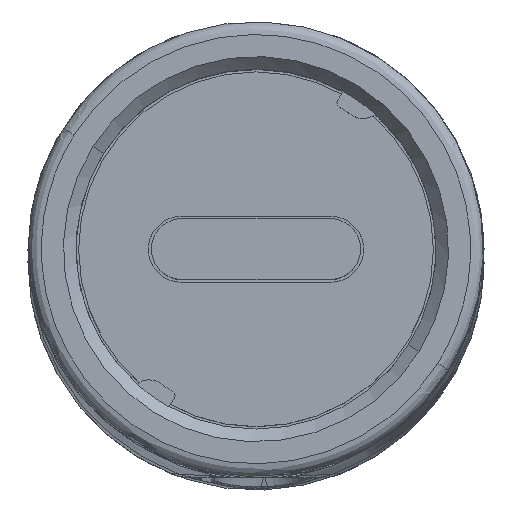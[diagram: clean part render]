
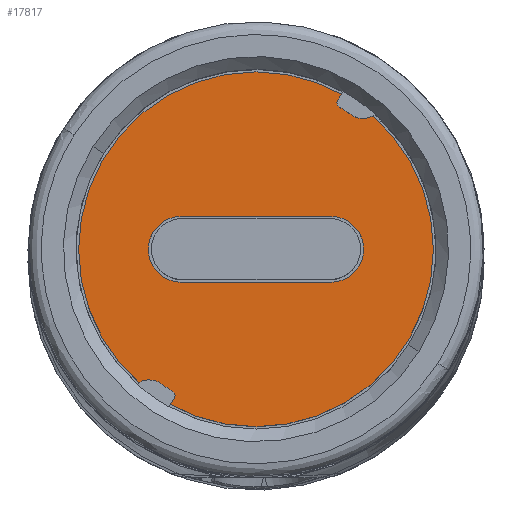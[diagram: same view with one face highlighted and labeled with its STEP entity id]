
A CAD part, top view. The second image highlights one B-rep face of the part: STEP entity #17817.
In plain terms, the highlighted planar face has unit normal (0, 0, 1).
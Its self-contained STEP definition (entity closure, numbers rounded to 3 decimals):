
#425 = ORIENTED_EDGE ( 'NONE', *, *, #13682, .T. ) ;
#2402 = CARTESIAN_POINT ( 'NONE',  ( 7., 0., 309.2 ) ) ;
#3842 = CARTESIAN_POINT ( 'NONE',  ( -2.95, -1.3, 309.2 ) ) ;
#5584 = LINE ( 'NONE', #35479, #45210 ) ;
#6913 = EDGE_CURVE ( 'NONE', #44796, #57198, #31152, .T. ) ;
#8463 = VERTEX_POINT ( 'NONE', #52411 ) ;
#8838 = ORIENTED_EDGE ( 'NONE', *, *, #43844, .T. ) ;
#9765 = AXIS2_PLACEMENT_3D ( 'NONE', #57800, #58109, #13270 ) ;
#9795 = AXIS2_PLACEMENT_3D ( 'NONE', #14526, #10920, #25877 ) ;
#10013 = DIRECTION ( 'NONE',  ( 0., 0., -1. ) ) ;
#10767 = CIRCLE ( 'NONE', #35676, 1.3 ) ;
#10920 = DIRECTION ( 'NONE',  ( 0., 0., -1. ) ) ;
#11335 = ORIENTED_EDGE ( 'NONE', *, *, #45751, .T. ) ;
#11986 = CARTESIAN_POINT ( 'NONE',  ( 2.95, -1.3, 309.2 ) ) ;
#12684 = AXIS2_PLACEMENT_3D ( 'NONE', #59428, #39271, #24341 ) ;
#13270 = DIRECTION ( 'NONE',  ( -1., 0., 0. ) ) ;
#13682 = EDGE_CURVE ( 'NONE', #59653, #55777, #5584, .T. ) ;
#14526 = CARTESIAN_POINT ( 'NONE',  ( 2.95, 0., 309.2 ) ) ;
#14597 = CARTESIAN_POINT ( 'NONE',  ( -7., 0., 309.2 ) ) ;
#14966 = CIRCLE ( 'NONE', #9765, 7. ) ;
#16417 = EDGE_LOOP ( 'NONE', ( #60427, #25013 ) ) ;
#17817 = ADVANCED_FACE ( 'NONE', ( #29523, #54544 ), #18806, .F. ) ;
#18806 = PLANE ( 'NONE',  #43040 ) ;
#20437 = CARTESIAN_POINT ( 'NONE',  ( 2.95, -1.3, 309.2 ) ) ;
#21718 = EDGE_CURVE ( 'NONE', #50116, #41496, #36570, .T. ) ;
#24341 = DIRECTION ( 'NONE',  ( -1., 0., 0. ) ) ;
#25013 = ORIENTED_EDGE ( 'NONE', *, *, #27663, .F. ) ;
#25158 = CIRCLE ( 'NONE', #12684, 1.3 ) ;
#25163 = AXIS2_PLACEMENT_3D ( 'NONE', #26205, #46338, #25878 ) ;
#25877 = DIRECTION ( 'NONE',  ( -1., 0., 0. ) ) ;
#25878 = DIRECTION ( 'NONE',  ( -1., 0., 0. ) ) ;
#26205 = CARTESIAN_POINT ( 'NONE',  ( 0., 0., 309.2 ) ) ;
#26418 = CIRCLE ( 'NONE', #9795, 1.3 ) ;
#27663 = EDGE_CURVE ( 'NONE', #41496, #50116, #14966, .T. ) ;
#29029 = VECTOR ( 'NONE', #46422, 1000. ) ;
#29523 = FACE_OUTER_BOUND ( 'NONE', #16417, .T. ) ;
#31152 = LINE ( 'NONE', #11986, #29029 ) ;
#34131 = EDGE_LOOP ( 'NONE', ( #11335, #8838, #43556, #57320, #425 ) ) ;
#35183 = CARTESIAN_POINT ( 'NONE',  ( 2.95, 1.3, 309.2 ) ) ;
#35479 = CARTESIAN_POINT ( 'NONE',  ( 2.95, 1.3, 309.2 ) ) ;
#35676 = AXIS2_PLACEMENT_3D ( 'NONE', #59592, #40395, #46244 ) ;
#36570 = CIRCLE ( 'NONE', #25163, 7. ) ;
#38600 = CARTESIAN_POINT ( 'NONE',  ( 0., 0., 309.2 ) ) ;
#39031 = EDGE_CURVE ( 'NONE', #57198, #59653, #25158, .T. ) ;
#39271 = DIRECTION ( 'NONE',  ( 0., 0., -1. ) ) ;
#40395 = DIRECTION ( 'NONE',  ( 0., 0., -1. ) ) ;
#41496 = VERTEX_POINT ( 'NONE', #14597 ) ;
#43040 = AXIS2_PLACEMENT_3D ( 'NONE', #38600, #10013, #49330 ) ;
#43556 = ORIENTED_EDGE ( 'NONE', *, *, #6913, .T. ) ;
#43844 = EDGE_CURVE ( 'NONE', #8463, #44796, #10767, .T. ) ;
#44796 = VERTEX_POINT ( 'NONE', #20437 ) ;
#45210 = VECTOR ( 'NONE', #50745, 1000. ) ;
#45751 = EDGE_CURVE ( 'NONE', #55777, #8463, #26418, .T. ) ;
#46244 = DIRECTION ( 'NONE',  ( -1., 0., 0. ) ) ;
#46338 = DIRECTION ( 'NONE',  ( 0., 0., -1. ) ) ;
#46422 = DIRECTION ( 'NONE',  ( -1., 0., 0. ) ) ;
#49330 = DIRECTION ( 'NONE',  ( -1., 0., 0. ) ) ;
#50116 = VERTEX_POINT ( 'NONE', #2402 ) ;
#50745 = DIRECTION ( 'NONE',  ( 1., 0., 0. ) ) ;
#52411 = CARTESIAN_POINT ( 'NONE',  ( 4.25, 0., 309.2 ) ) ;
#54008 = CARTESIAN_POINT ( 'NONE',  ( -2.95, 1.3, 309.2 ) ) ;
#54544 = FACE_BOUND ( 'NONE', #34131, .T. ) ;
#55777 = VERTEX_POINT ( 'NONE', #35183 ) ;
#57198 = VERTEX_POINT ( 'NONE', #3842 ) ;
#57320 = ORIENTED_EDGE ( 'NONE', *, *, #39031, .T. ) ;
#57800 = CARTESIAN_POINT ( 'NONE',  ( 0., 0., 309.2 ) ) ;
#58109 = DIRECTION ( 'NONE',  ( 0., 0., -1. ) ) ;
#59428 = CARTESIAN_POINT ( 'NONE',  ( -2.95, 0., 309.2 ) ) ;
#59592 = CARTESIAN_POINT ( 'NONE',  ( 2.95, 0., 309.2 ) ) ;
#59653 = VERTEX_POINT ( 'NONE', #54008 ) ;
#60427 = ORIENTED_EDGE ( 'NONE', *, *, #21718, .F. ) ;
